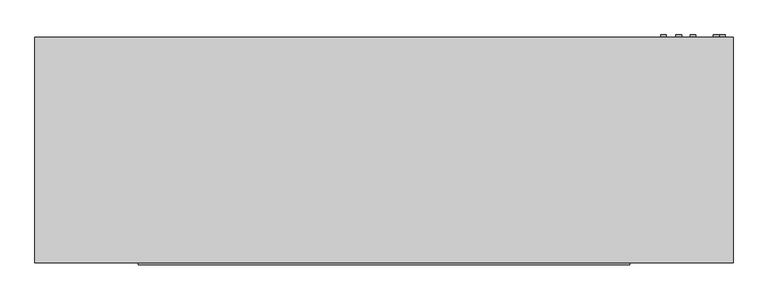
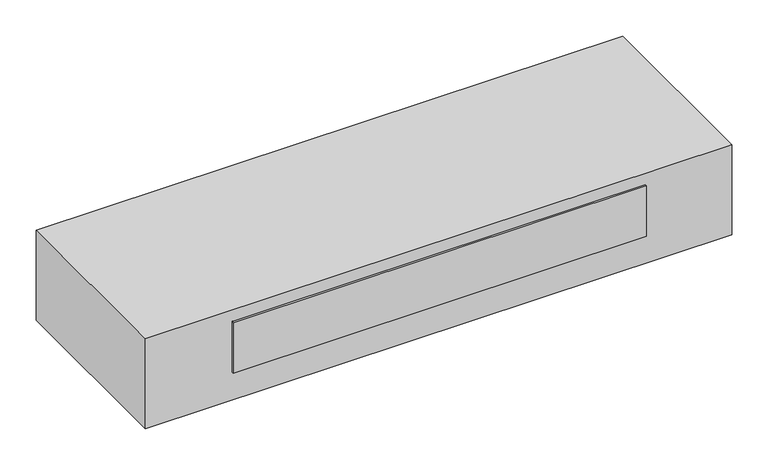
"""IFC4 building model written with IfcOpenShell, lengths in millimetres: proxy geometry, Exposed_Horizontal_Fan_Coil_Unit_-_42CGB_-_CARRIER_-_4-Pipe_FS-BR_RH_2022 : Size 10 - 277v/60Hz/1Ph - 4/1 Coil."""

import ifcopenshell
import ifcopenshell.guid

model = None  # the IFC model being written
_history = None  # IfcOwnerHistory: only IFC2X3 demands one
_inside = {}  # id of a spatial element -> (the spatial element, [elements in it])
_under = {}  # id of a project, library or spatial element -> (it, [spatial elements below it])
_declared = {}  # id of a project -> (the project, [libraries it declares])
_typed = {}  # id of a type object -> (the type object, [elements of that type])
_made_of = {}  # id of a material, layer set ... -> (it, [elements and type objects made of it])


def new_model(schema):
    """Start an empty IFC model of exactly this schema.

    Asked for "IFC4X3", IfcOpenShell would pick the latest addendum, in which some entities
    have other attributes; the version numbers below select the first issue.
    IFC2X3 requires an IfcOwnerHistory on every rooted entity: one is made here for all.
    """
    global model, _history
    if schema == "IFC4X3":
        model = ifcopenshell.file(schema_version=(4, 3, 0, 0))
    else:
        model = ifcopenshell.file(schema=schema)
    _inside.clear()
    _under.clear()
    _declared.clear()
    _typed.clear()
    _made_of.clear()
    _history = None
    if model.schema == "IFC2X3":
        org = make("IfcOrganization", Name="unknown")
        user = make(
            "IfcPersonAndOrganization",
            ThePerson=make("IfcPerson", FamilyName="unknown"),
            TheOrganization=org,
        )
        app = make(
            "IfcApplication",
            ApplicationDeveloper=org,
            Version="unknown",
            ApplicationFullName="unknown",
            ApplicationIdentifier="unknown",
        )
        _history = make(
            "IfcOwnerHistory",
            OwningUser=user,
            OwningApplication=app,
            ChangeAction="ADDED",
            CreationDate=0,
        )
    return model


def make(cls, **values):
    """One entity of the class cls with the attributes given. An attribute that is None is left unset."""
    return model.create_entity(
        cls, **{name: value for name, value in values.items() if value is not None}
    )


def rooted(cls, **values):
    """An entity with a GlobalId (a new one), such as an element, a storey or a relation."""
    return make(cls, GlobalId=ifcopenshell.guid.new(), OwnerHistory=_history, **values)


def si_unit(unit_type, name, prefix=None):
    """IfcSIUnit, for example si_unit("LENGTHUNIT", "METRE", prefix="MILLI")."""
    return make("IfcSIUnit", UnitType=unit_type, Prefix=prefix, Name=name)


def assignment(units):
    """IfcUnitAssignment: the units of a project."""
    return None if units is None else make("IfcUnitAssignment", Units=units)


def point(xyz):
    """IfcCartesianPoint."""
    return None if xyz is None else make("IfcCartesianPoint", Coordinates=xyz)


def direction(xyz):
    """IfcDirection."""
    return None if xyz is None else make("IfcDirection", DirectionRatios=xyz)


def frame(location, z_axis=None, x_axis=None):
    """IfcAxis2Placement3D, a coordinate frame: its origin and axes. An axis left out is left unset."""
    return make(
        "IfcAxis2Placement3D",
        Location=point(location),
        Axis=direction(z_axis),
        RefDirection=direction(x_axis),
    )


def frame_2d(location, x_axis=None):
    """IfcAxis2Placement2D, a coordinate frame in the plane: its origin and x axis."""
    return make(
        "IfcAxis2Placement2D", Location=point(location), RefDirection=direction(x_axis)
    )


def origin():
    """The frame at (0, 0, 0) with its axes left unset."""
    return frame((0.0, 0.0, 0.0))


def place(relative_to, where):
    """IfcLocalPlacement: puts the frame where relative to a parent placement (None: the world)."""
    return make(
        "IfcLocalPlacement", PlacementRelTo=relative_to, RelativePlacement=where
    )


def context(
    kind, dimensions, precision=None, world=None, true_north=None, identifier=None
):
    """IfcGeometricRepresentationContext, for example the 3D "Model" context."""
    return make(
        "IfcGeometricRepresentationContext",
        ContextIdentifier=identifier,
        ContextType=kind,
        CoordinateSpaceDimension=dimensions,
        Precision=precision,
        WorldCoordinateSystem=world,
        TrueNorth=true_north,
    )


def project(units=None, contexts=None):
    """IfcProject with its units and contexts."""
    return rooted(
        "IfcProject",
        Name="project",
        RepresentationContexts=contexts,
        UnitsInContext=assignment(units),
    )


def spatial(cls, under=None, at=None, **own):
    """A site, building, storey or space (cls), placed at a placement, below another one or the project."""
    s = rooted(cls, ObjectPlacement=at, **own)
    if under is not None:
        _under.setdefault(under.id(), (under, []))[1].append(s)
    return s


def polyline(points):
    """IfcPolyline through the points."""
    return make("IfcPolyline", Points=[point(p) for p in points])


def circle_curve(where, radius):
    """IfcCircle in the frame where."""
    return make("IfcCircle", Position=where, Radius=radius)


def trimmed(basis, trim1, trim2, sense, master):
    """IfcTrimmedCurve: the piece of a basis curve between two trims."""
    return make(
        "IfcTrimmedCurve",
        BasisCurve=basis,
        Trim1=trim1,
        Trim2=trim2,
        SenseAgreement=sense,
        MasterRepresentation=master,
    )


def segment(curve, same_sense, transition):
    """IfcCompositeCurveSegment."""
    return make(
        "IfcCompositeCurveSegment",
        Transition=transition,
        SameSense=same_sense,
        ParentCurve=curve,
    )


def composite_curve(segments, self_intersect=None):
    """IfcCompositeCurve: segments joined end to end."""
    return make("IfcCompositeCurve", Segments=segments, SelfIntersect=self_intersect)


def outline(outer, holes=None, kind="AREA"):
    """IfcArbitraryClosedProfileDef: a profile drawn as a closed curve; with holes, ...WithVoids."""
    if holes is None:
        return make("IfcArbitraryClosedProfileDef", ProfileType=kind, OuterCurve=outer)
    return make(
        "IfcArbitraryProfileDefWithVoids",
        ProfileType=kind,
        OuterCurve=outer,
        InnerCurves=holes,
    )


def extrude(swept, where, along, depth):
    """IfcExtrudedAreaSolid: the profile swept, set in the frame where, extruded along a direction by depth."""
    return make(
        "IfcExtrudedAreaSolid",
        SweptArea=swept,
        Position=where,
        ExtrudedDirection=direction(along),
        Depth=depth,
    )


def shape(context_of_items, identifier, shape_type, items):
    """IfcShapeRepresentation: the items that make up one representation, for example the "Body"."""
    return make(
        "IfcShapeRepresentation",
        ContextOfItems=context_of_items,
        RepresentationIdentifier=identifier,
        RepresentationType=shape_type,
        Items=items,
    )


def source(mapping_origin, context_of_items, identifier, shape_type, items):
    """IfcRepresentationMap: a shape defined once, which mapped items show again and again."""
    return make(
        "IfcRepresentationMap",
        MappingOrigin=mapping_origin,
        MappedRepresentation=shape(context_of_items, identifier, shape_type, items),
    )


def transform(
    local_origin,
    x_axis=None,
    y_axis=None,
    z_axis=None,
    scale=None,
    scale2=None,
    scale3=None,
    uniform=True,
):
    """IfcCartesianTransformationOperator3D, or its non-uniform kind. x_axis, y_axis, z_axis: its Axis1, 2, 3."""
    if uniform:
        return make(
            "IfcCartesianTransformationOperator3D",
            Axis1=direction(x_axis),
            Axis2=direction(y_axis),
            LocalOrigin=point(local_origin),
            Scale=scale,
            Axis3=direction(z_axis),
        )
    return make(
        "IfcCartesianTransformationOperator3DnonUniform",
        Axis1=direction(x_axis),
        Axis2=direction(y_axis),
        LocalOrigin=point(local_origin),
        Scale=scale,
        Axis3=direction(z_axis),
        Scale2=scale2,
        Scale3=scale3,
    )


def mapped(mapping_source, mapping_target):
    """IfcMappedItem: shows the shape of a source again, moved by a transform."""
    return make(
        "IfcMappedItem", MappingSource=mapping_source, MappingTarget=mapping_target
    )


def made_of(thing, what):
    """Note that an element or type object is made of a material, layer set ...; save() writes the relation."""
    if what is not None:
        _made_of.setdefault(what.id(), (what, []))[1].append(thing)
    return thing


def element(
    cls,
    number,
    at=None,
    inside=None,
    cuts=None,
    type_object=None,
    material=None,
    context=None,
    identifier="Body",
    shape_type=None,
    held_by="IfcProductDefinitionShape",
    body=None,
    shapes=None,
    **own,
):
    """One element of the class cls, such as IfcWall. Its Tag is "e" and its number.

    at: its placement. inside: the storey or other place that contains it. cuts: it is an
    opening in that element (IfcRelVoidsElement). A single representation is given by context,
    identifier, shape_type and body (its items); several are given by shapes. held_by: the class
    of the entity that holds the representations. save() writes the other relations.
    """
    e = rooted(cls, Tag="e%d" % number, ObjectPlacement=at, **own)
    if body is not None:
        shapes = [shape(context, identifier, shape_type, body)]
    if shapes is not None:
        e.Representation = make(held_by, Representations=shapes)
    if inside is not None:
        _inside.setdefault(inside.id(), (inside, []))[1].append(e)
    if cuts is not None:
        rooted(
            "IfcRelVoidsElement", RelatingBuildingElement=cuts, RelatedOpeningElement=e
        )
    if type_object is not None:
        _typed.setdefault(type_object.id(), (type_object, []))[1].append(e)
    return made_of(e, material)


def aggregate(whole, parts):
    """IfcRelAggregates: a whole, such as a stair, and the parts it consists of."""
    return rooted("IfcRelAggregates", RelatingObject=whole, RelatedObjects=parts)


def save(model, path):
    """Write the relations noted so far, then the file.

    IfcRelAggregates (storeys below a building ...), IfcRelContainedInSpatialStructure (elements
    in a storey), IfcRelDefinesByType, IfcRelAssociatesMaterial and IfcRelDeclares: one each for
    every whole, place, type object, material and project.
    """
    for whole, parts in _under.values():
        aggregate(whole, parts)
    for where, things in _inside.values():
        rooted(
            "IfcRelContainedInSpatialStructure",
            RelatedElements=things,
            RelatingStructure=where,
        )
    for kind, things in _typed.values():
        rooted("IfcRelDefinesByType", RelatedObjects=things, RelatingType=kind)
    for what, things in _made_of.values():
        rooted("IfcRelAssociatesMaterial", RelatedObjects=things, RelatingMaterial=what)
    for by, libraries in _declared.values():
        rooted("IfcRelDeclares", RelatingContext=by, RelatedDefinitions=libraries)
    model.write(path)


def mechanical_equipment_a888a23b(model_context):
    return source(origin(), model_context, "Body", "SweptSolid", [
        extrude(outline(composite_curve([segment(trimmed(circle_curve(frame_2d((-85.725, 1063.625)), 7.9375), [point((-85.725, 1071.5625))], [point((-85.725, 1055.6875))], False, "CARTESIAN"), True, "CONTINUOUS"), segment(trimmed(circle_curve(frame_2d((-85.725, 1063.625)), 7.9375), [point((-85.725, 1055.6875))], [point((-85.725, 1071.5625))], False, "CARTESIAN"), True, "CONTINUOUS")], self_intersect=False)), frame((0.0, 65.0875, 0.0), z_axis=(0.0, 1.0, 0.0), x_axis=(0.0, 0.0, 1.0)), (0.0, 0.0, 1.0), 6.35),
        extrude(outline(composite_curve([segment(trimmed(circle_curve(frame_2d((-44.45, 984.25)), 7.9375), [point((-44.45, 992.1875))], [point((-44.45, 976.3125))], False, "CARTESIAN"), True, "CONTINUOUS"), segment(trimmed(circle_curve(frame_2d((-44.45, 984.25)), 7.9375), [point((-44.45, 976.3125))], [point((-44.45, 992.1875))], False, "CARTESIAN"), True, "CONTINUOUS")], self_intersect=False)), frame((0.0, 65.0875, 0.0), z_axis=(0.0, 1.0, 0.0), x_axis=(0.0, 0.0, 1.0)), (0.0, 0.0, 1.0), 6.35),
        extrude(outline(composite_curve([segment(trimmed(circle_curve(frame_2d((-95.25, 946.15)), 7.9375), [point((-95.25, 954.0875))], [point((-95.25, 938.2125))], False, "CARTESIAN"), True, "CONTINUOUS"), segment(trimmed(circle_curve(frame_2d((-95.25, 946.15)), 7.9375), [point((-95.25, 938.2125))], [point((-95.25, 954.0875))], False, "CARTESIAN"), True, "CONTINUOUS")], self_intersect=False)), frame((0.0, 65.0875, 0.0), z_axis=(0.0, 1.0, 0.0), x_axis=(0.0, 0.0, 1.0)), (0.0, 0.0, 1.0), 6.35),
        extrude(outline(composite_curve([segment(trimmed(circle_curve(frame_2d((-60.325, 904.875)), 7.9375), [point((-60.325, 912.8125))], [point((-60.325, 896.9375))], False, "CARTESIAN"), True, "CONTINUOUS"), segment(trimmed(circle_curve(frame_2d((-60.325, 904.875)), 7.9375), [point((-60.325, 896.9375))], [point((-60.325, 912.8125))], False, "CARTESIAN"), True, "CONTINUOUS")], self_intersect=False)), frame((0.0, 65.0875, 0.0), z_axis=(0.0, 1.0, 0.0), x_axis=(0.0, 0.0, 1.0)), (0.0, 0.0, 1.0), 6.35),
        extrude(outline(composite_curve([segment(trimmed(circle_curve(frame_2d((-260.35, 1047.75)), 9.525), [point((-260.35, 1057.275))], [point((-260.35, 1038.225))], False, "CARTESIAN"), True, "CONTINUOUS"), segment(trimmed(circle_curve(frame_2d((-260.35, 1047.75)), 9.525), [point((-260.35, 1038.225))], [point((-260.35, 1057.275))], False, "CARTESIAN"), True, "CONTINUOUS")], self_intersect=False)), frame((0.0, 65.0875, 0.0), z_axis=(0.0, 1.0, 0.0), x_axis=(0.0, 0.0, 1.0)), (0.0, 0.0, 1.0), 6.35),
        extrude(outline(polyline([(-787.4, 65.0875), (1092.2, 65.0875), (1092.2, -541.3375), (-787.4, -541.3375), (-787.4, 65.0875)])), frame((0.0, 0.0, -304.8), z_axis=(0.0, 0.0, 1.0), x_axis=(1.0, 0.0, 0.0)), (0.0, 0.0, 1.0), 304.8),
        extrude(outline(polyline([(814.3875, -547.6875), (-509.5875, -547.6875), (-509.5875, -541.3375), (814.3875, -541.3375), (814.3875, -547.6875)])), frame((0.0, 0.0, -209.55), z_axis=(0.0, 0.0, 1.0), x_axis=(1.0, 0.0, 0.0)), (0.0, 0.0, 1.0), 171.45),
        extrude(outline(polyline([(844.55, -11.1125), (844.55, -265.1125), (-539.75, -265.1125), (-539.75, -11.1125), (844.55, -11.1125)])), frame((0.0, 0.0, -311.15), z_axis=(0.0, 0.0, 1.0), x_axis=(1.0, 0.0, 0.0)), (0.0, 0.0, 1.0), 6.35),
    ])


if __name__ == "__main__":
    model = new_model("IFC4")
    model_context = context("Model", 3, world=origin())
    ifc_project = project(units=[si_unit("LENGTHUNIT", "METRE", prefix="MILLI")], contexts=[model_context])
    site = spatial("IfcSite", under=ifc_project)
    building = spatial("IfcBuilding", under=site)
    placement = place(None, origin())
    mechanical_equipment_shape = mechanical_equipment_a888a23b(model_context)
    element("IfcBuildingElementProxy", 1, Name="Exposed_Horizontal_Fan_Coil_Unit_-_42CGB_-_CARRIER_-_4-Pipe_FS-BR_RH_2022 : Size 10 - 277v/60Hz/1Ph - 4/1 Coil", ObjectType="Exposed_Horizontal_Fan_Coil_Unit_-_42CGB_-_CARRIER_-_4-Pipe_FS-BR_RH_2022 : Size 10 - 277v/60Hz/1Ph - 4/1 Coil", at=placement, inside=building, context=model_context, shape_type="MappedRepresentation", body=[
        mapped(mechanical_equipment_shape, transform((0.0, 0.0, 0.0), x_axis=(1.0, 0.0, 0.0), y_axis=(0.0, 1.0, 0.0), z_axis=(0.0, 0.0, 1.0))),
    ])
    save(model, "model.ifc")
